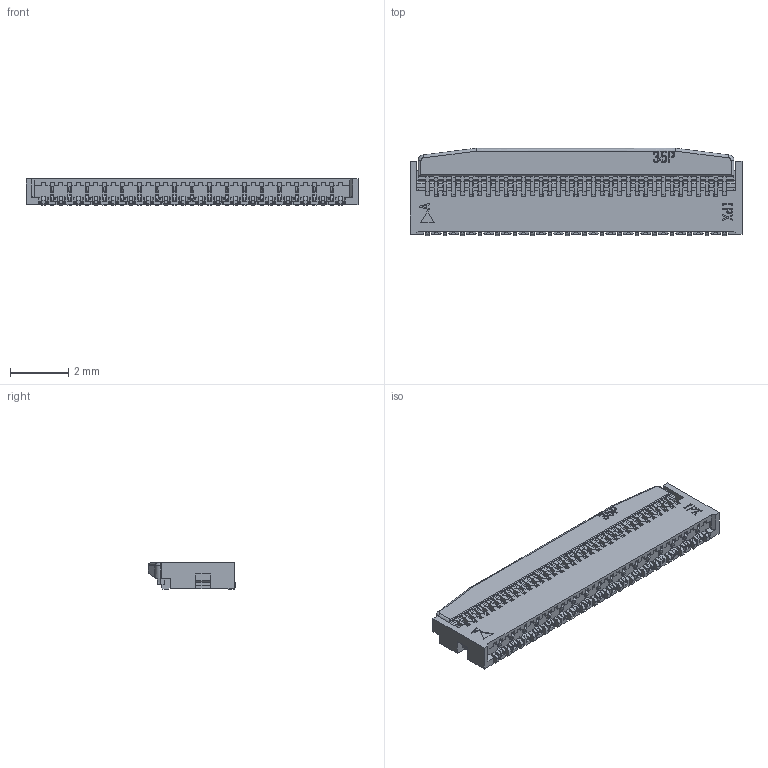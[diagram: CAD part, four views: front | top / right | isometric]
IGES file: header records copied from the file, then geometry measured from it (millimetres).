
Start section: SolidWorks IGES file using analytic representation for surfaces
Global section: file name: Q:\個人専用\SHIMADA\MFX3-BFN\3D-DATA\35p\iges\20527-035ExxxC act close iges R2 OLYMPUS.IGS; native system: SolidWorks 2010; preprocessor: SolidWorks 2010; author: kaihatsu-3dcad-1; date: 110722.200959; units: millimetre
Bounding box: 11.4 x 3 x 0.9 mm (x, y, z)
Surface area: 151.9 mm2 (no closed solid volume)
Topology: 0 solids, 0 shells, 2971 faces, 19595 edges, 19593 vertices
Faces by surface type: bspline 2471, revolution 500
